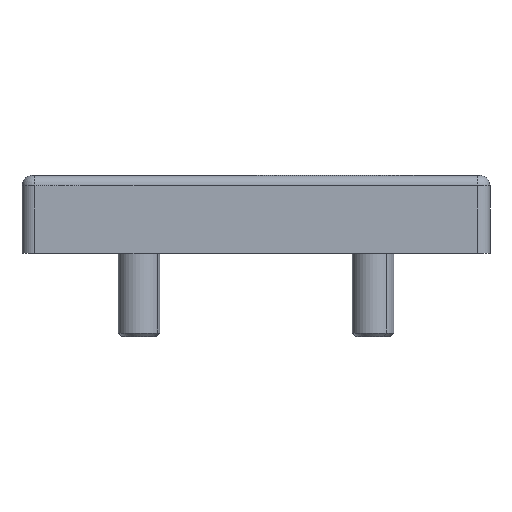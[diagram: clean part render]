
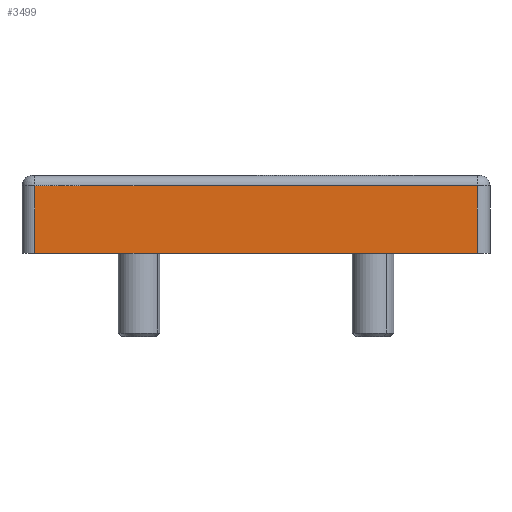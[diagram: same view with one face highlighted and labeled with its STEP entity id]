
A CAD part, left-side view. The second image highlights one B-rep face of the part: STEP entity #3499.
In plain terms, the highlighted planar face has unit normal (-1, 0, 0).
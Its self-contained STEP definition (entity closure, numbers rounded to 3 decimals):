
#264 = CARTESIAN_POINT ( 'NONE',  ( -45.574, 53.237, -12.793 ) ) ;
#448 = EDGE_CURVE ( 'NONE', #3374, #7716, #9852, .T. ) ;
#455 = ORIENTED_EDGE ( 'NONE', *, *, #3802, .T. ) ;
#515 = VECTOR ( 'NONE', #5240, 1000. ) ;
#604 = LINE ( 'NONE', #1308, #3763 ) ;
#1308 = CARTESIAN_POINT ( 'NONE',  ( -45.574, 50.737, -12.793 ) ) ;
#1834 = CARTESIAN_POINT ( 'NONE',  ( -45.574, -34.263, -12.793 ) ) ;
#1882 = FACE_OUTER_BOUND ( 'NONE', #2933, .T. ) ;
#2933 = EDGE_LOOP ( 'NONE', ( #8768, #455, #5902, #5578 ) ) ;
#3286 = CARTESIAN_POINT ( 'NONE',  ( -45.574, 50.737, -12.793 ) ) ;
#3374 = VERTEX_POINT ( 'NONE', #3286 ) ;
#3499 = ADVANCED_FACE ( 'NONE', ( #1882 ), #9059, .T. ) ;
#3602 = DIRECTION ( 'NONE',  ( 0., -1., 0. ) ) ;
#3763 = VECTOR ( 'NONE', #8675, 1000. ) ;
#3796 = DIRECTION ( 'NONE',  ( 0., -1., 0. ) ) ;
#3802 = EDGE_CURVE ( 'NONE', #3861, #6284, #11429, .T. ) ;
#3861 = VERTEX_POINT ( 'NONE', #5569 ) ;
#3953 = EDGE_CURVE ( 'NONE', #6284, #3374, #604, .T. ) ;
#3976 = DIRECTION ( 'NONE',  ( -1., 0., 0. ) ) ;
#4336 = VECTOR ( 'NONE', #7846, 1000. ) ;
#4554 = CARTESIAN_POINT ( 'NONE',  ( -45.574, 53.237, 0.207 ) ) ;
#5240 = DIRECTION ( 'NONE',  ( 0., 1., 0. ) ) ;
#5569 = CARTESIAN_POINT ( 'NONE',  ( -45.574, -34.263, 0.207 ) ) ;
#5578 = ORIENTED_EDGE ( 'NONE', *, *, #448, .T. ) ;
#5650 = CARTESIAN_POINT ( 'NONE',  ( -45.574, 50.737, 0.207 ) ) ;
#5902 = ORIENTED_EDGE ( 'NONE', *, *, #3953, .T. ) ;
#6284 = VERTEX_POINT ( 'NONE', #5650 ) ;
#6957 = CARTESIAN_POINT ( 'NONE',  ( -45.574, 53.237, -12.793 ) ) ;
#7543 = VECTOR ( 'NONE', #3602, 1000. ) ;
#7716 = VERTEX_POINT ( 'NONE', #10141 ) ;
#7846 = DIRECTION ( 'NONE',  ( 0., 0., 1. ) ) ;
#8675 = DIRECTION ( 'NONE',  ( 0., 0., -1. ) ) ;
#8768 = ORIENTED_EDGE ( 'NONE', *, *, #10798, .T. ) ;
#9059 = PLANE ( 'NONE',  #10782 ) ;
#9852 = LINE ( 'NONE', #6957, #7543 ) ;
#10141 = CARTESIAN_POINT ( 'NONE',  ( -45.574, -34.263, -12.793 ) ) ;
#10756 = LINE ( 'NONE', #1834, #4336 ) ;
#10782 = AXIS2_PLACEMENT_3D ( 'NONE', #264, #3976, #3796 ) ;
#10798 = EDGE_CURVE ( 'NONE', #7716, #3861, #10756, .T. ) ;
#11429 = LINE ( 'NONE', #4554, #515 ) ;
